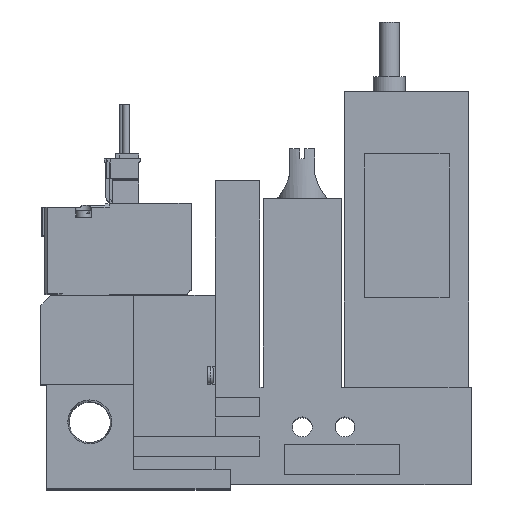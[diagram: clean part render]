
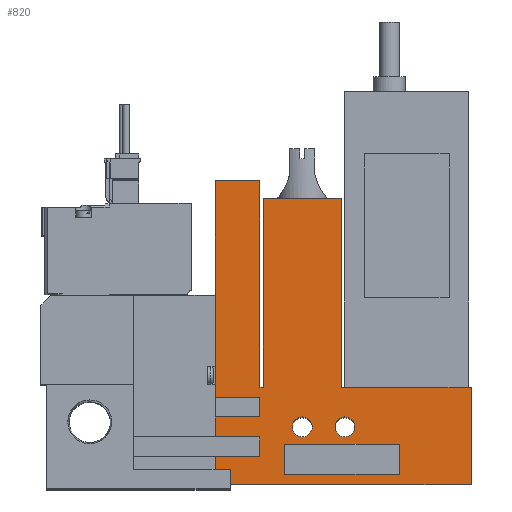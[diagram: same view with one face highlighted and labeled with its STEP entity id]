
A CAD part, top view. The second image highlights one B-rep face of the part: STEP entity #820.
In plain terms, the highlighted planar face has unit normal (0, 0, 1).
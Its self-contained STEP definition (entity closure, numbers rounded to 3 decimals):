
#820=ADVANCED_FACE('',(#1695,#1696,#1697,#1698),#1699,.T.);
#1695=FACE_OUTER_BOUND('',#2781,.T.);
#1696=FACE_BOUND('',#2782,.T.);
#1697=FACE_BOUND('',#2783,.T.);
#1698=FACE_BOUND('',#2784,.T.);
#1699=PLANE('',#2785);
#2781=EDGE_LOOP('',(#5930,#5931,#5932,#5933,#5934,#5935,#5936,#5937,#5938,#5939,#5940,#5941,#5942,#5943,#5944,#5945,#5946,#5947));
#2782=EDGE_LOOP('',(#5948,#5949,#5950,#5951));
#2783=EDGE_LOOP('',(#5952));
#2784=EDGE_LOOP('',(#5953));
#2785=AXIS2_PLACEMENT_3D('',#5954,#5955,#5956);
#5930=ORIENTED_EDGE('',*,*,#7645,.T.);
#5931=ORIENTED_EDGE('',*,*,#7671,.T.);
#5932=ORIENTED_EDGE('',*,*,#7667,.T.);
#5933=ORIENTED_EDGE('',*,*,#7660,.T.);
#5934=ORIENTED_EDGE('',*,*,#7675,.T.);
#5935=ORIENTED_EDGE('',*,*,#7678,.T.);
#5936=ORIENTED_EDGE('',*,*,#7541,.T.);
#5937=ORIENTED_EDGE('',*,*,#7502,.T.);
#5938=ORIENTED_EDGE('',*,*,#7583,.T.);
#5939=ORIENTED_EDGE('',*,*,#7574,.T.);
#5940=ORIENTED_EDGE('',*,*,#7513,.T.);
#5941=ORIENTED_EDGE('',*,*,#7680,.T.);
#5942=ORIENTED_EDGE('',*,*,#7522,.T.);
#5943=ORIENTED_EDGE('',*,*,#7518,.T.);
#5944=ORIENTED_EDGE('',*,*,#7526,.T.);
#5945=ORIENTED_EDGE('',*,*,#7654,.T.);
#5946=ORIENTED_EDGE('',*,*,#7537,.T.);
#5947=ORIENTED_EDGE('',*,*,#7633,.T.);
#5948=ORIENTED_EDGE('',*,*,#7486,.T.);
#5949=ORIENTED_EDGE('',*,*,#7479,.T.);
#5950=ORIENTED_EDGE('',*,*,#7652,.T.);
#5951=ORIENTED_EDGE('',*,*,#7681,.T.);
#5952=ORIENTED_EDGE('',*,*,#7547,.T.);
#5953=ORIENTED_EDGE('',*,*,#7639,.T.);
#5954=CARTESIAN_POINT('',(0.0,0.0,10.0));
#5955=DIRECTION('',(0.0,0.0,1.0));
#5956=DIRECTION('',(1.0,0.0,0.0));
#7479=EDGE_CURVE('',#9090,#9095,#9097,.T.);
#7486=EDGE_CURVE('',#9106,#9090,#9110,.T.);
#7502=EDGE_CURVE('',#9139,#9137,#9140,.T.);
#7513=EDGE_CURVE('',#9160,#9158,#9161,.T.);
#7518=EDGE_CURVE('',#9170,#9168,#9171,.T.);
#7522=EDGE_CURVE('',#9176,#9170,#9177,.T.);
#7526=EDGE_CURVE('',#9168,#9181,#9183,.T.);
#7537=EDGE_CURVE('',#9201,#9199,#9202,.T.);
#7541=EDGE_CURVE('',#9204,#9139,#9208,.T.);
#7547=EDGE_CURVE('',#9219,#9219,#9220,.T.);
#7574=EDGE_CURVE('',#9270,#9160,#9271,.T.);
#7583=EDGE_CURVE('',#9137,#9270,#9285,.T.);
#7633=EDGE_CURVE('',#9199,#9364,#9366,.T.);
#7639=EDGE_CURVE('',#9374,#9374,#9375,.T.);
#7645=EDGE_CURVE('',#9364,#9381,#9383,.T.);
#7652=EDGE_CURVE('',#9095,#9392,#9394,.T.);
#7654=EDGE_CURVE('',#9181,#9201,#9396,.T.);
#7660=EDGE_CURVE('',#9398,#9404,#9406,.T.);
#7667=EDGE_CURVE('',#9414,#9398,#9416,.T.);
#7671=EDGE_CURVE('',#9381,#9414,#9421,.T.);
#7675=EDGE_CURVE('',#9404,#9425,#9427,.T.);
#7678=EDGE_CURVE('',#9425,#9204,#9430,.T.);
#7680=EDGE_CURVE('',#9158,#9176,#9432,.T.);
#7681=EDGE_CURVE('',#9392,#9106,#9433,.T.);
#9090=VERTEX_POINT('',#11679);
#9095=VERTEX_POINT('',#11686);
#9097=LINE('',#11689,#11690);
#9106=VERTEX_POINT('',#11703);
#9110=LINE('',#11709,#11710);
#9137=VERTEX_POINT('',#11748);
#9139=VERTEX_POINT('',#11751);
#9140=LINE('',#11752,#11753);
#9158=VERTEX_POINT('',#11780);
#9160=VERTEX_POINT('',#11783);
#9161=LINE('',#11784,#11785);
#9168=VERTEX_POINT('',#11794);
#9170=VERTEX_POINT('',#11797);
#9171=LINE('',#11798,#11799);
#9176=VERTEX_POINT('',#11806);
#9177=LINE('',#11807,#11808);
#9181=VERTEX_POINT('',#11814);
#9183=LINE('',#11817,#11818);
#9199=VERTEX_POINT('',#11863);
#9201=VERTEX_POINT('',#11866);
#9202=LINE('',#11867,#11868);
#9204=VERTEX_POINT('',#11871);
#9208=LINE('',#11877,#11878);
#9219=VERTEX_POINT('',#11893);
#9220=CIRCLE('',#11894,2.0);
#9270=VERTEX_POINT('',#11961);
#9271=LINE('',#11962,#11963);
#9285=LINE('',#11985,#11986);
#9364=VERTEX_POINT('',#12109);
#9366=LINE('',#12112,#12113);
#9374=VERTEX_POINT('',#12125);
#9375=CIRCLE('',#12126,2.0);
#9381=VERTEX_POINT('',#12136);
#9383=LINE('',#12139,#12140);
#9392=VERTEX_POINT('',#12153);
#9394=LINE('',#12156,#12157);
#9396=LINE('',#12160,#12161);
#9398=VERTEX_POINT('',#12164);
#9404=VERTEX_POINT('',#12173);
#9406=LINE('',#12176,#12177);
#9414=VERTEX_POINT('',#12190);
#9416=LINE('',#12193,#12194);
#9421=LINE('',#12202,#12203);
#9425=VERTEX_POINT('',#12209);
#9427=LINE('',#12212,#12213);
#9430=LINE('',#12218,#12219);
#9432=LINE('',#12222,#12223);
#9433=LINE('',#12224,#12225);
#11679=CARTESIAN_POINT('',(49.1,8.0,10.0));
#11686=CARTESIAN_POINT('',(72.1,8.0,10.0));
#11689=CARTESIAN_POINT('',(0.0,8.0,10.0));
#11690=VECTOR('',#13792,1.0);
#11703=CARTESIAN_POINT('',(49.1,2.0,10.0));
#11709=CARTESIAN_POINT('',(49.1,0.0,10.0));
#11710=VECTOR('',#13799,1.0);
#11748=CARTESIAN_POINT('',(35.1,5.5,10.0));
#11751=CARTESIAN_POINT('',(44.1,5.5,10.0));
#11752=CARTESIAN_POINT('',(0.0,5.5,10.0));
#11753=VECTOR('',#13821,1.0);
#11780=CARTESIAN_POINT('',(86.6,19.5,10.0));
#11783=CARTESIAN_POINT('',(86.6,0.0,10.0));
#11784=CARTESIAN_POINT('',(86.6,0.0,10.0));
#11785=VECTOR('',#13832,1.0);
#11794=CARTESIAN_POINT('',(44.75,57.5,10.0));
#11797=CARTESIAN_POINT('',(60.45,57.5,10.0));
#11798=CARTESIAN_POINT('',(60.45,57.5,10.0));
#11799=VECTOR('',#13839,1.0);
#11806=CARTESIAN_POINT('',(60.45,19.5,10.0));
#11807=CARTESIAN_POINT('',(60.45,19.5,10.0));
#11808=VECTOR('',#13845,1.0);
#11814=CARTESIAN_POINT('',(44.75,19.5,10.0));
#11817=CARTESIAN_POINT('',(44.75,57.5,10.0));
#11818=VECTOR('',#13849,1.0);
#11863=CARTESIAN_POINT('',(44.1,61.0,10.0));
#11866=CARTESIAN_POINT('',(44.1,19.5,10.0));
#11867=CARTESIAN_POINT('',(44.1,19.5,10.0));
#11868=VECTOR('',#13863,1.0);
#11871=CARTESIAN_POINT('',(44.1,9.5,10.0));
#11877=CARTESIAN_POINT('',(44.1,0.0,10.0));
#11878=VECTOR('',#13867,1.0);
#11893=CARTESIAN_POINT('',(54.6,11.5,10.0));
#11894=AXIS2_PLACEMENT_3D('',#13875,#13876,#13877);
#11961=CARTESIAN_POINT('',(35.1,0.0,10.0));
#11962=CARTESIAN_POINT('',(18.6,0.0,10.0));
#11963=VECTOR('',#13922,1.0);
#11985=CARTESIAN_POINT('',(35.1,0.0,10.0));
#11986=VECTOR('',#13931,1.0);
#12109=CARTESIAN_POINT('',(35.1,61.0,10.0));
#12112=CARTESIAN_POINT('',(44.1,61.0,10.0));
#12113=VECTOR('',#13986,1.0);
#12125=CARTESIAN_POINT('',(63.2,11.5,10.0));
#12126=AXIS2_PLACEMENT_3D('',#13994,#13995,#13996);
#12136=CARTESIAN_POINT('',(35.1,17.5,10.0));
#12139=CARTESIAN_POINT('',(35.1,61.0,10.0));
#12140=VECTOR('',#14002,1.0);
#12153=CARTESIAN_POINT('',(72.1,2.0,10.0));
#12156=CARTESIAN_POINT('',(72.1,0.0,10.0));
#12157=VECTOR('',#14011,1.0);
#12160=CARTESIAN_POINT('',(44.75,19.5,10.0));
#12161=VECTOR('',#14013,1.0);
#12164=CARTESIAN_POINT('',(44.1,13.5,10.0));
#12173=CARTESIAN_POINT('',(35.1,13.5,10.0));
#12176=CARTESIAN_POINT('',(0.0,13.5,10.0));
#12177=VECTOR('',#14019,1.0);
#12190=CARTESIAN_POINT('',(44.1,17.5,10.0));
#12193=CARTESIAN_POINT('',(44.1,0.0,10.0));
#12194=VECTOR('',#14026,1.0);
#12202=CARTESIAN_POINT('',(0.0,17.5,10.0));
#12203=VECTOR('',#14030,1.0);
#12209=CARTESIAN_POINT('',(35.1,9.5,10.0));
#12212=CARTESIAN_POINT('',(35.1,0.0,10.0));
#12213=VECTOR('',#14034,1.0);
#12218=CARTESIAN_POINT('',(0.0,9.5,10.0));
#12219=VECTOR('',#14037,1.0);
#12222=CARTESIAN_POINT('',(86.6,19.5,10.0));
#12223=VECTOR('',#14039,1.0);
#12224=CARTESIAN_POINT('',(0.0,2.0,10.0));
#12225=VECTOR('',#14040,1.0);
#13792=DIRECTION('',(1.0,0.0,0.0));
#13799=DIRECTION('',(0.0,1.0,0.0));
#13821=DIRECTION('',(-1.0,0.0,0.0));
#13832=DIRECTION('',(0.0,1.0,0.0));
#13839=DIRECTION('',(-1.0,0.0,0.0));
#13845=DIRECTION('',(0.0,1.0,0.0));
#13849=DIRECTION('',(0.0,-1.0,0.0));
#13863=DIRECTION('',(0.0,1.0,0.0));
#13867=DIRECTION('',(0.0,-1.0,0.0));
#13875=CARTESIAN_POINT('',(52.6,11.5,10.0));
#13876=DIRECTION('',(0.0,0.0,-1.0));
#13877=DIRECTION('',(1.0,0.0,0.0));
#13922=DIRECTION('',(1.0,0.0,0.0));
#13931=DIRECTION('',(0.0,-1.0,0.0));
#13986=DIRECTION('',(-1.0,0.0,0.0));
#13994=CARTESIAN_POINT('',(61.2,11.5,10.0));
#13995=DIRECTION('',(0.0,0.0,-1.0));
#13996=DIRECTION('',(1.0,0.0,0.0));
#14002=DIRECTION('',(0.0,-1.0,0.0));
#14011=DIRECTION('',(0.0,-1.0,0.0));
#14013=DIRECTION('',(-1.0,0.0,0.0));
#14019=DIRECTION('',(-1.0,0.0,0.0));
#14026=DIRECTION('',(0.0,-1.0,0.0));
#14030=DIRECTION('',(1.0,0.0,0.0));
#14034=DIRECTION('',(0.0,-1.0,0.0));
#14037=DIRECTION('',(1.0,0.0,0.0));
#14039=DIRECTION('',(-1.0,0.0,0.0));
#14040=DIRECTION('',(-1.0,0.0,0.0));
